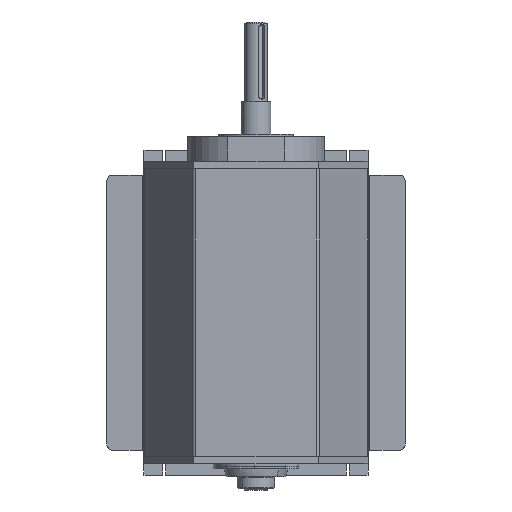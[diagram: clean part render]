
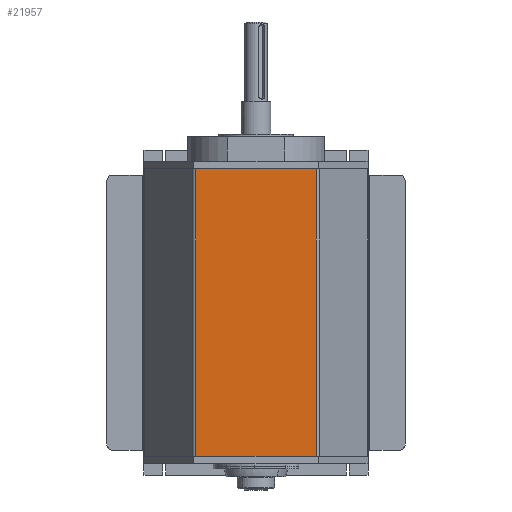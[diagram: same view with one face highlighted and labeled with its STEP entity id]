
A CAD part, front view. The second image highlights one B-rep face of the part: STEP entity #21957.
In plain terms, the highlighted planar face has unit normal (0, -1, 0).
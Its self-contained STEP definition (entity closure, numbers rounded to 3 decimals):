
#1773 = DIRECTION ( 'NONE',  ( 0., 0., -1. ) ) ;
#1951 = PLANE ( 'NONE',  #11748 ) ;
#2628 = ORIENTED_EDGE ( 'NONE', *, *, #14175, .T. ) ;
#2706 = CARTESIAN_POINT ( 'NONE',  ( 48.268, 0., 404.779 ) ) ;
#2911 = EDGE_CURVE ( 'NONE', #12600, #4627, #9424, .T. ) ;
#3507 = ORIENTED_EDGE ( 'NONE', *, *, #2911, .F. ) ;
#3852 = LINE ( 'NONE', #15626, #13537 ) ;
#4259 = ORIENTED_EDGE ( 'NONE', *, *, #10026, .T. ) ;
#4627 = VERTEX_POINT ( 'NONE', #9329 ) ;
#4740 = DIRECTION ( 'NONE',  ( 1., 0., 0. ) ) ;
#6988 = LINE ( 'NONE', #7208, #10701 ) ;
#7208 = CARTESIAN_POINT ( 'NONE',  ( -48.268, 0., 404.779 ) ) ;
#9192 = DIRECTION ( 'NONE',  ( -1., 0., 0. ) ) ;
#9329 = CARTESIAN_POINT ( 'NONE',  ( 48.268, 0., -115.5 ) ) ;
#9424 = LINE ( 'NONE', #2706, #13710 ) ;
#10026 = EDGE_CURVE ( 'NONE', #12600, #20394, #18956, .T. ) ;
#10701 = VECTOR ( 'NONE', #1773, 1000. ) ;
#11298 = CARTESIAN_POINT ( 'NONE',  ( 48.268, 0., 115.5 ) ) ;
#11748 = AXIS2_PLACEMENT_3D ( 'NONE', #18259, #20092, #9192 ) ;
#12600 = VERTEX_POINT ( 'NONE', #11298 ) ;
#13396 = CARTESIAN_POINT ( 'NONE',  ( -48.268, 0., 115.5 ) ) ;
#13537 = VECTOR ( 'NONE', #4740, 1000. ) ;
#13585 = DIRECTION ( 'NONE',  ( 0., 0., -1. ) ) ;
#13710 = VECTOR ( 'NONE', #13585, 1000. ) ;
#14175 = EDGE_CURVE ( 'NONE', #20394, #18928, #6988, .T. ) ;
#14545 = EDGE_CURVE ( 'NONE', #18928, #4627, #3852, .T. ) ;
#14575 = CARTESIAN_POINT ( 'NONE',  ( -48.268, 0., -115.5 ) ) ;
#15626 = CARTESIAN_POINT ( 'NONE',  ( -50., 0., -115.5 ) ) ;
#17281 = CARTESIAN_POINT ( 'NONE',  ( -50., 0., 115.5 ) ) ;
#18259 = CARTESIAN_POINT ( 'NONE',  ( -50., 0., 404.779 ) ) ;
#18912 = ORIENTED_EDGE ( 'NONE', *, *, #14545, .T. ) ;
#18928 = VERTEX_POINT ( 'NONE', #14575 ) ;
#18956 = LINE ( 'NONE', #17281, #23224 ) ;
#20092 = DIRECTION ( 'NONE',  ( 0., 1., 0. ) ) ;
#20394 = VERTEX_POINT ( 'NONE', #13396 ) ;
#21147 = FACE_OUTER_BOUND ( 'NONE', #22352, .T. ) ;
#21957 = ADVANCED_FACE ( 'NONE', ( #21147 ), #1951, .F. ) ;
#22352 = EDGE_LOOP ( 'NONE', ( #4259, #2628, #18912, #3507 ) ) ;
#22851 = DIRECTION ( 'NONE',  ( -1., 0., 0. ) ) ;
#23224 = VECTOR ( 'NONE', #22851, 1000. ) ;
